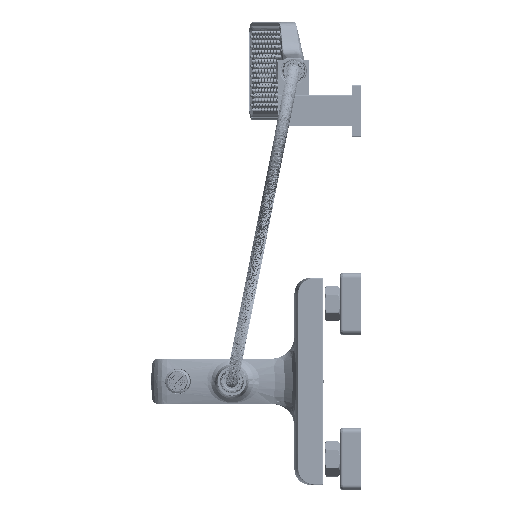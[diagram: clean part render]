
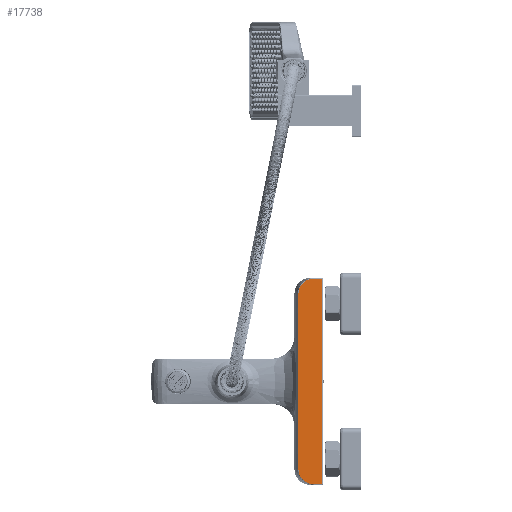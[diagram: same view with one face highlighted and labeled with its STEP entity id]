
A CAD part, front view. The second image highlights one B-rep face of the part: STEP entity #17738.
In plain terms, the highlighted planar face has unit normal (0, -1, 0).
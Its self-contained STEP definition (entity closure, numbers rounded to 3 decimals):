
#4824=DIRECTION('',(-1.,0.,0.));
#4825=VECTOR('',#4824,7.75);
#4826=CARTESIAN_POINT('',(-0.5,-45.,99.5));
#4827=LINE('',#4826,#4825);
#4832=CARTESIAN_POINT('',(-8.25,-45.,-99.5));
#4833=CARTESIAN_POINT('',(-9.221,-45.,-99.5));
#4834=CARTESIAN_POINT('',(-11.233,-45.,
-99.326));
#4835=CARTESIAN_POINT('',(-14.175,-45.,
-98.51));
#4836=CARTESIAN_POINT('',(-16.931,-45.,
-97.124));
#4837=CARTESIAN_POINT('',(-19.312,-45.,
-95.256));
#4838=CARTESIAN_POINT('',(-21.208,-45.,
-93.023));
#4839=CARTESIAN_POINT('',(-22.592,-45.,
-90.516));
#4840=CARTESIAN_POINT('',(-23.441,-45.,
-87.824));
#4841=CARTESIAN_POINT('',(-23.634,-45.,-85.941));
#4842=CARTESIAN_POINT('',(-23.634,-45.,-85.));
#4844=CARTESIAN_POINT('',(-23.634,-45.,85.));
#4845=CARTESIAN_POINT('',(-23.634,-45.,85.923));
#4846=CARTESIAN_POINT('',(-23.447,-45.,87.783));
#4847=CARTESIAN_POINT('',(-22.627,-45.,90.424));
#4848=CARTESIAN_POINT('',(-21.371,-45.,92.745));
#4849=CARTESIAN_POINT('',(-19.87,-45.,94.627));
#4850=CARTESIAN_POINT('',(-18.297,-45.,96.075));
#4851=CARTESIAN_POINT('',(-16.742,-45.,97.163));
#4852=CARTESIAN_POINT('',(-15.25,-45.,97.967));
#4853=CARTESIAN_POINT('',(-13.847,-45.,98.548));
#4854=CARTESIAN_POINT('',(-12.544,-45.,98.954));
#4855=CARTESIAN_POINT('',(-11.344,-45.,99.225));
#4856=CARTESIAN_POINT('',(-10.239,-45.,99.393));
#4857=CARTESIAN_POINT('',(-9.219,-45.,99.482));
#4858=CARTESIAN_POINT('',(-8.565,-45.,99.5));
#4859=CARTESIAN_POINT('',(-8.25,-45.,99.5));
#4865=DIRECTION('',(0.,0.,1.));
#4866=VECTOR('',#4865,199.);
#4867=CARTESIAN_POINT('',(-0.5,-45.,-99.5));
#4868=LINE('',#4867,#4866);
#4966=DIRECTION('',(0.,0.,-1.));
#4967=VECTOR('',#4966,170.);
#4968=CARTESIAN_POINT('',(-23.634,-45.,85.));
#4969=LINE('',#4968,#4967);
#4974=DIRECTION('',(1.,0.,0.));
#4975=VECTOR('',#4974,7.75);
#4976=CARTESIAN_POINT('',(-8.25,-45.,-99.5));
#4977=LINE('',#4976,#4975);
#8264=CARTESIAN_POINT('',(-8.25,-45.,99.5));
#8265=VERTEX_POINT('',#8264);
#8266=VERTEX_POINT('',#4844);
#8267=CARTESIAN_POINT('',(-0.5,-45.,99.5));
#8268=VERTEX_POINT('',#8267);
#8269=CARTESIAN_POINT('',(-0.5,-45.,-99.5));
#8270=VERTEX_POINT('',#8269);
#8271=CARTESIAN_POINT('',(-8.25,-45.,-99.5));
#8272=VERTEX_POINT('',#8271);
#8273=VERTEX_POINT('',#4842);
#17721=CARTESIAN_POINT('',(-24.,-45.,-100.));
#17722=DIRECTION('',(0.,-1.,0.));
#17723=DIRECTION('',(1.,0.,0.));
#17724=AXIS2_PLACEMENT_3D('',#17721,#17722,#17723);
#17725=PLANE('',#17724);
#17726=ORIENTED_EDGE('',*,*,#17712,.F.);
#17728=ORIENTED_EDGE('',*,*,#17727,.F.);
#17730=ORIENTED_EDGE('',*,*,#17729,.F.);
#17732=ORIENTED_EDGE('',*,*,#17731,.T.);
#17734=ORIENTED_EDGE('',*,*,#17733,.F.);
#17735=ORIENTED_EDGE('',*,*,#17700,.T.);
#17736=EDGE_LOOP('',(#17726,#17728,#17730,#17732,#17734,#17735));
#17737=FACE_OUTER_BOUND('',#17736,.F.);
#4843=B_SPLINE_CURVE_WITH_KNOTS('',3,(#4832,#4833,#4834,#4835,#4836,#4837,#4838,
#4839,#4840,#4841,#4842),.UNSPECIFIED.,.F.,.F.,(4,1,1,1,1,1,1,1,4),(0.,
0.124,0.257,0.388,0.516,
0.641,0.76,0.88,1.),.UNSPECIFIED.);
#4860=B_SPLINE_CURVE_WITH_KNOTS('',3,(#4844,#4845,#4846,#4847,#4848,#4849,#4850,
#4851,#4852,#4853,#4854,#4855,#4856,#4857,#4858,#4859),.UNSPECIFIED.,.F.,.F.,(4,
1,1,1,1,1,1,1,1,1,1,1,1,4),(0.,0.118,0.237,
0.351,0.453,0.543,0.624,
0.695,0.76,0.817,0.869,
0.917,0.96,1.),.UNSPECIFIED.);
#17700=EDGE_CURVE('',#8266,#8265,#4860,.T.);
#17712=EDGE_CURVE('',#8268,#8265,#4827,.T.);
#17727=EDGE_CURVE('',#8270,#8268,#4868,.T.);
#17729=EDGE_CURVE('',#8272,#8270,#4977,.T.);
#17731=EDGE_CURVE('',#8272,#8273,#4843,.T.);
#17733=EDGE_CURVE('',#8266,#8273,#4969,.T.);
#17738=ADVANCED_FACE('',(#17737),#17725,.T.);
